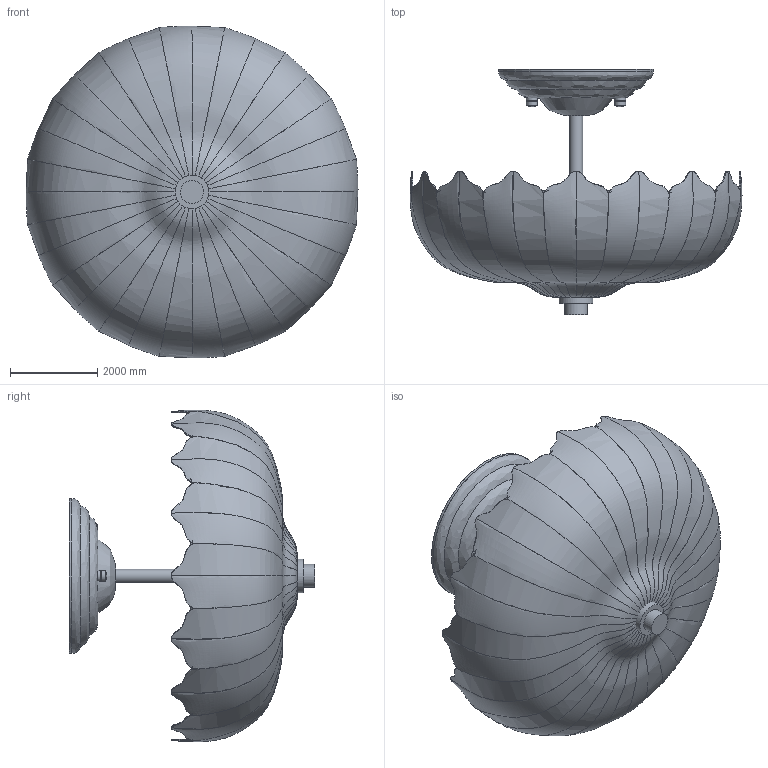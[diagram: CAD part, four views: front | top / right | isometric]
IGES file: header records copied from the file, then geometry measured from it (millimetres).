
Global section: file name: Alaina Glass Ceiling Lamp; native system: AutoCAD 2022 - 简体中文 (Simplified Chinese),62HAuto; preprocessor: desk Translation Framework DWG producer (atf_dwg_producer); organization: unknown; date: 20251020.083642; units: inch
Bounding box: 7595.89 x 5607.94 x 7595.19 mm (x, y, z)
Volume: 6272466652.8 mm3; surface area: 242613098.7 mm2
Topology: 17 solids, 17 shells, 306 faces, 764 edges, 503 vertices
Faces by surface type: bspline 306
